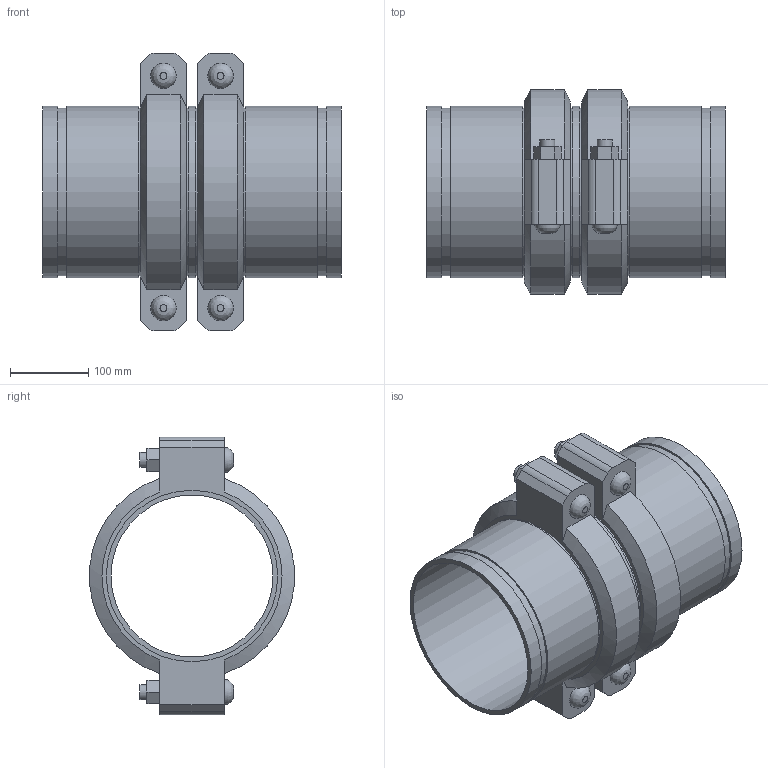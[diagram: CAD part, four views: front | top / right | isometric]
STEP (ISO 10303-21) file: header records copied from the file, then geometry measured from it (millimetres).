
FILE_DESCRIPTION(/* description */ ('VIC SS EXPANSION JOINT 2 COUPLINGS NEUTRAL STYLE 155P (OGS) (POTABLE WATER) ','CAx-IF Rec.Pracs.---Representation and Presentation of Product Manufacturing Information (PMI)---4.0---2014-10-13'),/* implementation_level */ '2;1');
FILE_NAME(/* name */ 'C:\Users\kkamble\AppData\Roaming\Autodesk\ApplicationPlugins\Victaulic.Temp\A659\Victaulic_SS_Expansion Joint_Neutral_2 Couplings_Style 155P (OGS)-Potable Water_2 Coup_Neut_8 (200).stp',/* time_stamp */ '2021-07-16T16:31:16+05:00',/* author */ ('kkamble'),/* organization */ ('Victaulic'),/* preprocessor_version */ 'ST-DEVELOPER v17.2',/* originating_system */ 'Autodesk Inventor 2019',/* authorisation */ '');
FILE_SCHEMA (('AP242_MANAGED_MODEL_BASED_3D_ENGINEERING_MIM_LF { 1 0 10303 442 1 1 4 }'));
Length unit declared in the file: inch
Products named in the file (4): 155P-08.0; Nipple-08.0; Nipple-08.0_1; 075-08.0
Assembly tree (5 placements, depth 2):
  155P-08.0
    Nipple-08.0  x2
    Nipple-08.0_1
    075-08.0  x2
Bounding box: 381 x 261.72 x 354.84 mm (x, y, z)
Volume: 4157860.3 mm3; surface area: 884908.9 mm2
Topology: 5 solids, 9 shells, 150 faces, 356 edges, 252 vertices
Faces by surface type: plane 90, cylinder 48, cone 8, bspline 4
Full cylindrical faces by diameter (mm): 19.05 x8, 21.209 x4, 206.985 x3, 212.725 x2, 214.401 x6, 219.075 x13
Entity records: 2753 total; most frequent: CARTESIAN_POINT 489, DIRECTION 453, ORIENTED_EDGE 386, EDGE_CURVE 193, AXIS2_PLACEMENT_3D 180, VERTEX_POINT 138, EDGE_LOOP 107, LINE 93
